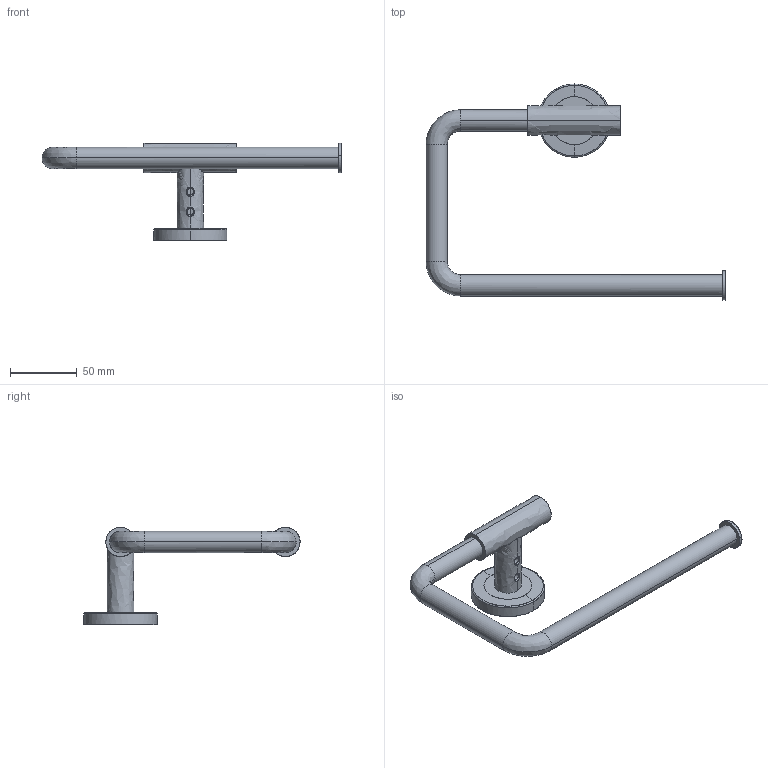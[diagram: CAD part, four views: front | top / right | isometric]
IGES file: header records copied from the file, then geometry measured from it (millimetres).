
Start section: SolidWorks IGES file using NURBS representation for surfaces
Global section: file name: G:\4- VARIOS\9 - Web Files\ARCHITECT S+\235##71-W.IGS; native system: SolidWorks 2016; preprocessor: SolidWorks 2016; author: vegrut01; date: 201027.112635; units: millimetre
Bounding box: 225.5 x 162.5 x 73.13 mm (x, y, z)
Surface area: 36058.8 mm2 (no closed solid volume)
Topology: 0 solids, 0 shells, 53 faces, 1306 edges, 1457 vertices
Faces by surface type: bspline 53
